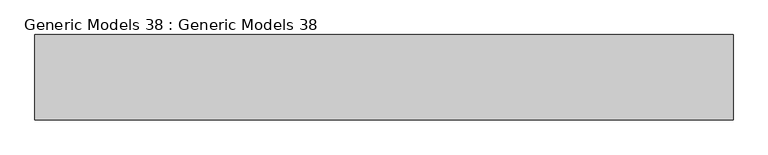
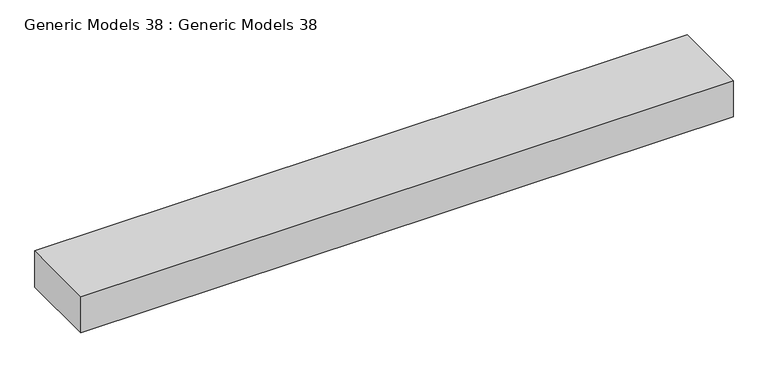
"""IFC4 building model written with IfcOpenShell, lengths in millimetres: proxy geometry, Generic Models 38 : Generic Models 38."""

from ifc_helpers import new_model, si_unit, frame, origin, place, context, project, spatial, polyline, outline, extrude, source, transform, mapped, element, save


def generic_models_38_generic_models_38_c5c5c476(model_context):
    return source(origin(), model_context, "Body", "SweptSolid", [
        extrude(outline(polyline([(-3352.8, 3162.3), (-127.0, 3162.3), (-127.0, 2768.6), (-3352.8, 2768.6), (-3352.8, 3162.3)])), frame((0.0, 0.0, 2374.9), z_axis=(0.0, 0.0, 1.0), x_axis=(1.0, 0.0, 0.0)), (0.0, 0.0, 1.0), 190.5),
    ])


if __name__ == "__main__":
    model = new_model("IFC4")
    model_context = context("Model", 3, world=origin())
    ifc_project = project(units=[si_unit("LENGTHUNIT", "METRE", prefix="MILLI")], contexts=[model_context])
    site = spatial("IfcSite", under=ifc_project)
    building = spatial("IfcBuilding", under=site)
    placement = place(None, origin())
    generic_models_38_generic_models_38_shape = generic_models_38_generic_models_38_c5c5c476(model_context)
    element("IfcBuildingElementProxy", 1, Name="Generic Models 38 : Generic Models 38", ObjectType="Generic Models 38 : Generic Models 38", at=placement, inside=building, context=model_context, shape_type="MappedRepresentation", body=[
        mapped(generic_models_38_generic_models_38_shape, transform((0.0, 0.0, 0.0), x_axis=(1.0, 0.0, 0.0), y_axis=(0.0, 1.0, 0.0), z_axis=(0.0, 0.0, 1.0))),
    ])
    save(model, "model.ifc")
